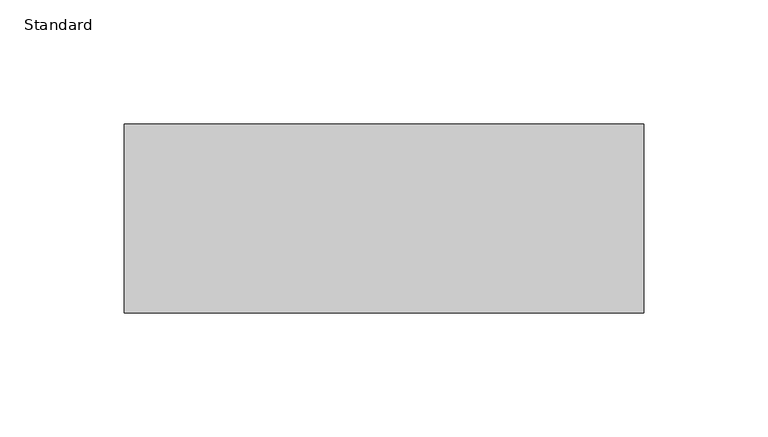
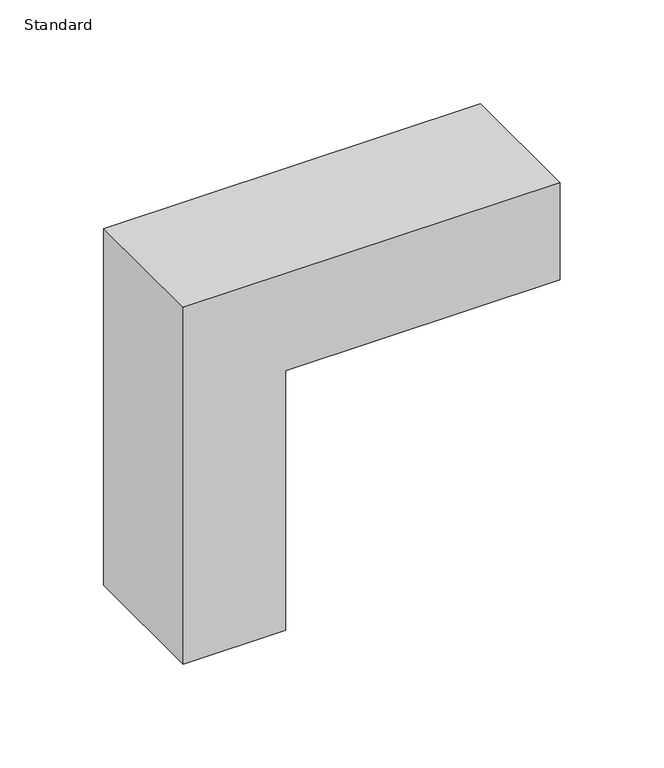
"""IFC4 building model written with IfcOpenShell, lengths in millimetres: proxy geometry, Elbow-ALA3800_Series-Wiremold-Horizontal-External : Standard."""

from ifc_helpers import new_model, si_unit, frame, origin, place, context, project, spatial, polyline, outline, extrude, source, transform, mapped, element, save


def standard_3c440130(model_context):
    return source(origin(), model_context, "Body", "SweptSolid", [
        extrude(outline(polyline([(57.15, 76.2), (57.15, -133.35), (-152.4, -133.35), (-152.4, -76.2), (0.0, -76.2), (0.0, 76.2), (57.15, 76.2)])), frame((0.0, -38.1, 0.0), z_axis=(0.0, 1.0, 0.0), x_axis=(0.0, 0.0, 1.0)), (0.0, 0.0, 1.0), 76.2),
    ])


if __name__ == "__main__":
    model = new_model("IFC4")
    model_context = context("Model", 3, world=origin())
    ifc_project = project(units=[si_unit("LENGTHUNIT", "METRE", prefix="MILLI")], contexts=[model_context])
    site = spatial("IfcSite", under=ifc_project)
    building = spatial("IfcBuilding", under=site)
    placement = place(None, origin())
    standard_shape = standard_3c440130(model_context)
    element("IfcBuildingElementProxy", 1, Name="Elbow-ALA3800_Series-Wiremold-Horizontal-External : Standard", ObjectType="Elbow-ALA3800_Series-Wiremold-Horizontal-External : Standard", at=placement, inside=building, context=model_context, shape_type="MappedRepresentation", body=[
        mapped(standard_shape, transform((0.0, 0.0, 0.0), x_axis=(1.0, 0.0, 0.0), y_axis=(0.0, 1.0, 0.0), z_axis=(0.0, 0.0, 1.0))),
    ])
    save(model, "model.ifc")
